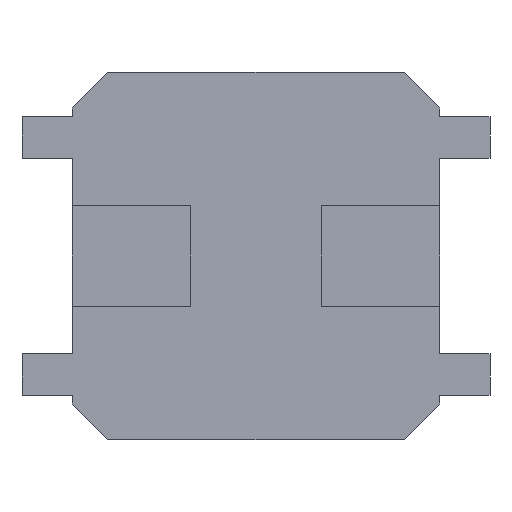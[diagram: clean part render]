
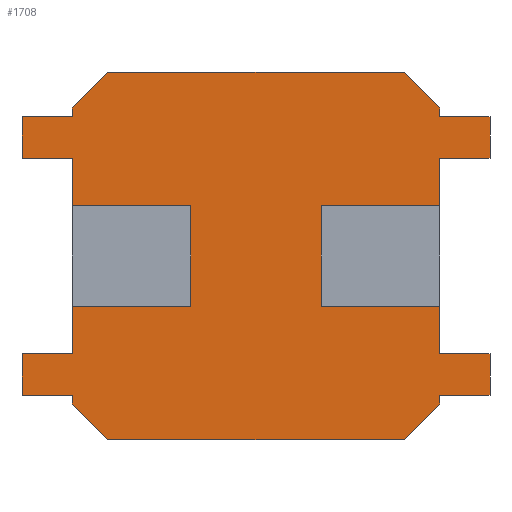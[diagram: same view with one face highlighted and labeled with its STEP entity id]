
A CAD part, front view. The second image highlights one B-rep face of the part: STEP entity #1708.
In plain terms, the highlighted planar face has unit normal (0, -1, 0).
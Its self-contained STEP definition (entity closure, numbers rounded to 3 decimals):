
#1=DIRECTION('',(0.707,0.,0.707));
#2=VECTOR('',#1,0.424);
#3=CARTESIAN_POINT('',(-1.55,0.,1.25));
#4=LINE('',#3,#2);
#5=DIRECTION('',(0.707,0.,-0.707));
#6=VECTOR('',#5,0.424);
#7=CARTESIAN_POINT('',(1.25,0.,1.55));
#8=LINE('',#7,#6);
#9=DIRECTION('',(-0.707,0.,-0.707));
#10=VECTOR('',#9,0.424);
#11=CARTESIAN_POINT('',(1.55,0.,-1.25));
#12=LINE('',#11,#10);
#13=DIRECTION('',(-0.707,0.,0.707));
#14=VECTOR('',#13,0.424);
#15=CARTESIAN_POINT('',(-1.25,0.,-1.55));
#16=LINE('',#15,#14);
#17=DIRECTION('',(0.,0.,-1.));
#18=VECTOR('',#17,0.4);
#19=CARTESIAN_POINT('',(-1.55,0.,0.825));
#20=LINE('',#19,#18);
#21=DIRECTION('',(0.,0.,-1.));
#22=VECTOR('',#21,0.4);
#23=CARTESIAN_POINT('',(-1.55,0.,-0.425));
#24=LINE('',#23,#22);
#25=DIRECTION('',(0.,0.,-1.));
#26=VECTOR('',#25,0.075);
#27=CARTESIAN_POINT('',(-1.55,0.,-1.175));
#28=LINE('',#27,#26);
#29=DIRECTION('',(0.,0.,-1.));
#30=VECTOR('',#29,0.075);
#31=CARTESIAN_POINT('',(-1.55,0.,1.25));
#32=LINE('',#31,#30);
#33=DIRECTION('',(1.,0.,0.));
#34=VECTOR('',#33,0.425);
#35=CARTESIAN_POINT('',(-1.975,0.,0.825));
#36=LINE('',#35,#34);
#49=DIRECTION('',(-1.,0.,0.));
#50=VECTOR('',#49,0.425);
#51=CARTESIAN_POINT('',(-1.55,0.,1.175));
#52=LINE('',#51,#50);
#73=DIRECTION('',(0.,0.,-1.));
#74=VECTOR('',#73,0.35);
#75=CARTESIAN_POINT('',(-1.975,0.,1.175));
#76=LINE('',#75,#74);
#81=DIRECTION('',(1.,0.,0.));
#82=VECTOR('',#81,1.);
#83=CARTESIAN_POINT('',(-1.55,0.,0.425));
#84=LINE('',#83,#82);
#89=DIRECTION('',(0.,0.,-1.));
#90=VECTOR('',#89,0.85);
#91=CARTESIAN_POINT('',(-0.55,0.,0.425));
#92=LINE('',#91,#90);
#97=DIRECTION('',(-1.,0.,0.));
#98=VECTOR('',#97,1.);
#99=CARTESIAN_POINT('',(-0.55,0.,-0.425));
#100=LINE('',#99,#98);
#121=DIRECTION('',(-1.,0.,0.));
#122=VECTOR('',#121,0.425);
#123=CARTESIAN_POINT('',(-1.55,0.,-0.825));
#124=LINE('',#123,#122);
#133=DIRECTION('',(0.,0.,-1.));
#134=VECTOR('',#133,0.35);
#135=CARTESIAN_POINT('',(-1.975,0.,-0.825));
#136=LINE('',#135,#134);
#137=DIRECTION('',(1.,0.,0.));
#138=VECTOR('',#137,0.425);
#139=CARTESIAN_POINT('',(-1.975,0.,-1.175));
#140=LINE('',#139,#138);
#173=DIRECTION('',(1.,0.,0.));
#174=VECTOR('',#173,2.5);
#175=CARTESIAN_POINT('',(-1.25,0.,-1.55));
#176=LINE('',#175,#174);
#181=DIRECTION('',(0.,0.,1.));
#182=VECTOR('',#181,0.4);
#183=CARTESIAN_POINT('',(1.55,0.,-0.825));
#184=LINE('',#183,#182);
#185=DIRECTION('',(0.,0.,1.));
#186=VECTOR('',#185,0.4);
#187=CARTESIAN_POINT('',(1.55,0.,0.425));
#188=LINE('',#187,#186);
#189=DIRECTION('',(0.,0.,1.));
#190=VECTOR('',#189,0.075);
#191=CARTESIAN_POINT('',(1.55,0.,1.175));
#192=LINE('',#191,#190);
#197=DIRECTION('',(0.,0.,1.));
#198=VECTOR('',#197,0.075);
#199=CARTESIAN_POINT('',(1.55,0.,-1.25));
#200=LINE('',#199,#198);
#201=DIRECTION('',(-1.,0.,0.));
#202=VECTOR('',#201,0.425);
#203=CARTESIAN_POINT('',(1.975,0.,-0.825));
#204=LINE('',#203,#202);
#217=DIRECTION('',(1.,0.,0.));
#218=VECTOR('',#217,0.425);
#219=CARTESIAN_POINT('',(1.55,0.,-1.175));
#220=LINE('',#219,#218);
#241=DIRECTION('',(0.,0.,1.));
#242=VECTOR('',#241,0.35);
#243=CARTESIAN_POINT('',(1.975,0.,-1.175));
#244=LINE('',#243,#242);
#245=DIRECTION('',(-1.,0.,0.));
#246=VECTOR('',#245,1.);
#247=CARTESIAN_POINT('',(1.55,0.,-0.425));
#248=LINE('',#247,#246);
#253=DIRECTION('',(0.,0.,1.));
#254=VECTOR('',#253,0.85);
#255=CARTESIAN_POINT('',(0.55,0.,-0.425));
#256=LINE('',#255,#254);
#261=DIRECTION('',(1.,0.,0.));
#262=VECTOR('',#261,1.);
#263=CARTESIAN_POINT('',(0.55,0.,0.425));
#264=LINE('',#263,#262);
#293=DIRECTION('',(1.,0.,0.));
#294=VECTOR('',#293,0.425);
#295=CARTESIAN_POINT('',(1.55,0.,0.825));
#296=LINE('',#295,#294);
#301=DIRECTION('',(0.,0.,1.));
#302=VECTOR('',#301,0.35);
#303=CARTESIAN_POINT('',(1.975,0.,0.825));
#304=LINE('',#303,#302);
#313=DIRECTION('',(-1.,0.,0.));
#314=VECTOR('',#313,0.425);
#315=CARTESIAN_POINT('',(1.975,0.,1.175));
#316=LINE('',#315,#314);
#341=DIRECTION('',(-1.,0.,0.));
#342=VECTOR('',#341,2.5);
#343=CARTESIAN_POINT('',(1.25,0.,1.55));
#344=LINE('',#343,#342);
#1237=CARTESIAN_POINT('',(-1.55,0.,1.175));
#1238=CARTESIAN_POINT('',(-1.975,0.,1.175));
#1239=VERTEX_POINT('',#1237);
#1240=VERTEX_POINT('',#1238);
#1241=CARTESIAN_POINT('',(-1.55,0.,1.25));
#1242=CARTESIAN_POINT('',(-1.25,0.,1.55));
#1243=VERTEX_POINT('',#1241);
#1244=VERTEX_POINT('',#1242);
#1245=CARTESIAN_POINT('',(1.25,0.,1.55));
#1246=CARTESIAN_POINT('',(1.55,0.,1.25));
#1247=VERTEX_POINT('',#1245);
#1248=VERTEX_POINT('',#1246);
#1249=CARTESIAN_POINT('',(1.975,0.,0.825));
#1250=CARTESIAN_POINT('',(1.975,0.,1.175));
#1251=VERTEX_POINT('',#1249);
#1252=VERTEX_POINT('',#1250);
#1253=CARTESIAN_POINT('',(1.55,0.,0.825));
#1254=VERTEX_POINT('',#1253);
#1255=CARTESIAN_POINT('',(1.55,0.,-0.425));
#1256=CARTESIAN_POINT('',(0.55,0.,-0.425));
#1257=VERTEX_POINT('',#1255);
#1258=VERTEX_POINT('',#1256);
#1259=CARTESIAN_POINT('',(1.55,0.,-1.175));
#1260=CARTESIAN_POINT('',(1.975,0.,-1.175));
#1261=VERTEX_POINT('',#1259);
#1262=VERTEX_POINT('',#1260);
#1263=CARTESIAN_POINT('',(1.55,0.,-1.25));
#1264=CARTESIAN_POINT('',(1.25,0.,-1.55));
#1265=VERTEX_POINT('',#1263);
#1266=VERTEX_POINT('',#1264);
#1267=CARTESIAN_POINT('',(-1.25,0.,-1.55));
#1268=CARTESIAN_POINT('',(-1.55,0.,-1.25));
#1269=VERTEX_POINT('',#1267);
#1270=VERTEX_POINT('',#1268);
#1271=CARTESIAN_POINT('',(-1.975,0.,-0.825));
#1272=CARTESIAN_POINT('',(-1.975,0.,-1.175));
#1273=VERTEX_POINT('',#1271);
#1274=VERTEX_POINT('',#1272);
#1275=CARTESIAN_POINT('',(-1.55,0.,-0.825));
#1276=VERTEX_POINT('',#1275);
#1277=CARTESIAN_POINT('',(-0.55,0.,0.425));
#1278=CARTESIAN_POINT('',(-0.55,0.,-0.425));
#1279=VERTEX_POINT('',#1277);
#1280=VERTEX_POINT('',#1278);
#1281=CARTESIAN_POINT('',(-1.55,0.,0.425));
#1282=VERTEX_POINT('',#1281);
#1283=CARTESIAN_POINT('',(-1.55,0.,0.825));
#1285=VERTEX_POINT('',#1283);
#1291=CARTESIAN_POINT('',(-1.55,0.,-0.425));
#1292=VERTEX_POINT('',#1291);
#1293=CARTESIAN_POINT('',(-1.55,0.,-1.175));
#1295=VERTEX_POINT('',#1293);
#1301=CARTESIAN_POINT('',(-1.975,0.,0.825));
#1302=VERTEX_POINT('',#1301);
#1323=CARTESIAN_POINT('',(1.55,0.,-0.825));
#1325=VERTEX_POINT('',#1323);
#1327=CARTESIAN_POINT('',(1.55,0.,0.425));
#1329=VERTEX_POINT('',#1327);
#1331=CARTESIAN_POINT('',(1.55,0.,1.175));
#1333=VERTEX_POINT('',#1331);
#1339=CARTESIAN_POINT('',(1.975,0.,-0.825));
#1340=VERTEX_POINT('',#1339);
#1349=CARTESIAN_POINT('',(0.55,0.,0.425));
#1350=VERTEX_POINT('',#1349);
#1637=CARTESIAN_POINT('',(0.,0.,0.));
#1638=DIRECTION('',(0.,1.,0.));
#1639=DIRECTION('',(1.,0.,0.));
#1640=AXIS2_PLACEMENT_3D('',#1637,#1638,#1639);
#1641=PLANE('',#1640);
#1643=ORIENTED_EDGE('',*,*,#1642,.F.);
#1645=ORIENTED_EDGE('',*,*,#1644,.F.);
#1647=ORIENTED_EDGE('',*,*,#1646,.F.);
#1649=ORIENTED_EDGE('',*,*,#1648,.F.);
#1651=ORIENTED_EDGE('',*,*,#1650,.F.);
#1653=ORIENTED_EDGE('',*,*,#1652,.T.);
#1655=ORIENTED_EDGE('',*,*,#1654,.F.);
#1657=ORIENTED_EDGE('',*,*,#1656,.T.);
#1659=ORIENTED_EDGE('',*,*,#1658,.F.);
#1661=ORIENTED_EDGE('',*,*,#1660,.F.);
#1663=ORIENTED_EDGE('',*,*,#1662,.F.);
#1665=ORIENTED_EDGE('',*,*,#1664,.F.);
#1667=ORIENTED_EDGE('',*,*,#1666,.F.);
#1669=ORIENTED_EDGE('',*,*,#1668,.F.);
#1671=ORIENTED_EDGE('',*,*,#1670,.F.);
#1673=ORIENTED_EDGE('',*,*,#1672,.F.);
#1675=ORIENTED_EDGE('',*,*,#1674,.F.);
#1677=ORIENTED_EDGE('',*,*,#1676,.F.);
#1679=ORIENTED_EDGE('',*,*,#1678,.F.);
#1681=ORIENTED_EDGE('',*,*,#1680,.F.);
#1683=ORIENTED_EDGE('',*,*,#1682,.F.);
#1685=ORIENTED_EDGE('',*,*,#1684,.T.);
#1687=ORIENTED_EDGE('',*,*,#1686,.F.);
#1689=ORIENTED_EDGE('',*,*,#1688,.T.);
#1691=ORIENTED_EDGE('',*,*,#1690,.F.);
#1693=ORIENTED_EDGE('',*,*,#1692,.F.);
#1695=ORIENTED_EDGE('',*,*,#1694,.F.);
#1697=ORIENTED_EDGE('',*,*,#1696,.F.);
#1699=ORIENTED_EDGE('',*,*,#1698,.F.);
#1701=ORIENTED_EDGE('',*,*,#1700,.F.);
#1703=ORIENTED_EDGE('',*,*,#1702,.F.);
#1705=ORIENTED_EDGE('',*,*,#1704,.F.);
#1706=EDGE_LOOP('',(#1643,#1645,#1647,#1649,#1651,#1653,#1655,#1657,#1659,#1661,
#1663,#1665,#1667,#1669,#1671,#1673,#1675,#1677,#1679,#1681,#1683,#1685,#1687,
#1689,#1691,#1693,#1695,#1697,#1699,#1701,#1703,#1705));
#1707=FACE_OUTER_BOUND('',#1706,.F.);
#1642=EDGE_CURVE('',#1285,#1282,#20,.T.);
#1644=EDGE_CURVE('',#1302,#1285,#36,.T.);
#1646=EDGE_CURVE('',#1240,#1302,#76,.T.);
#1648=EDGE_CURVE('',#1239,#1240,#52,.T.);
#1650=EDGE_CURVE('',#1243,#1239,#32,.T.);
#1652=EDGE_CURVE('',#1243,#1244,#4,.T.);
#1654=EDGE_CURVE('',#1247,#1244,#344,.T.);
#1656=EDGE_CURVE('',#1247,#1248,#8,.T.);
#1658=EDGE_CURVE('',#1333,#1248,#192,.T.);
#1660=EDGE_CURVE('',#1252,#1333,#316,.T.);
#1662=EDGE_CURVE('',#1251,#1252,#304,.T.);
#1664=EDGE_CURVE('',#1254,#1251,#296,.T.);
#1666=EDGE_CURVE('',#1329,#1254,#188,.T.);
#1668=EDGE_CURVE('',#1350,#1329,#264,.T.);
#1670=EDGE_CURVE('',#1258,#1350,#256,.T.);
#1672=EDGE_CURVE('',#1257,#1258,#248,.T.);
#1674=EDGE_CURVE('',#1325,#1257,#184,.T.);
#1676=EDGE_CURVE('',#1340,#1325,#204,.T.);
#1678=EDGE_CURVE('',#1262,#1340,#244,.T.);
#1680=EDGE_CURVE('',#1261,#1262,#220,.T.);
#1682=EDGE_CURVE('',#1265,#1261,#200,.T.);
#1684=EDGE_CURVE('',#1265,#1266,#12,.T.);
#1686=EDGE_CURVE('',#1269,#1266,#176,.T.);
#1688=EDGE_CURVE('',#1269,#1270,#16,.T.);
#1690=EDGE_CURVE('',#1295,#1270,#28,.T.);
#1692=EDGE_CURVE('',#1274,#1295,#140,.T.);
#1694=EDGE_CURVE('',#1273,#1274,#136,.T.);
#1696=EDGE_CURVE('',#1276,#1273,#124,.T.);
#1698=EDGE_CURVE('',#1292,#1276,#24,.T.);
#1700=EDGE_CURVE('',#1280,#1292,#100,.T.);
#1702=EDGE_CURVE('',#1279,#1280,#92,.T.);
#1704=EDGE_CURVE('',#1282,#1279,#84,.T.);
#1708=ADVANCED_FACE('',(#1707),#1641,.F.);
